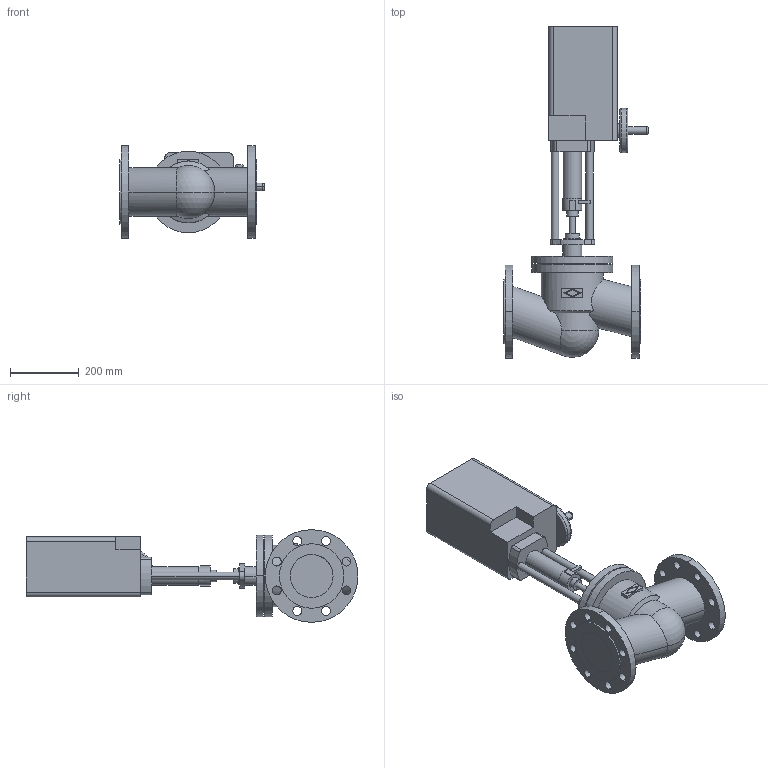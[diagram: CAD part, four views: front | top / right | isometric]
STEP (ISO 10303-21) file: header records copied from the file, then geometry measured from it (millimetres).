
FILE_DESCRIPTION(('OneSpaceDesigner STEP Export'),'2;1');
FILE_NAME('c000003127.stp','2007-01-16T10:43:26',(''),(''),'OneSpace Designer STEP processor for AP214 (Solid Model)','OneSpace Designer 14.00B 27-May-2006 (C) CoCreate Software GmbH','');
FILE_SCHEMA(('AUTOMOTIVE_DESIGN { 1 0 10303 214 1 1 1 1 }'));
Length unit declared in the file: millimetre
Products named in the file (2): 1; 2
Bounding box: 421.6 x 967.5 x 270 mm (x, y, z)
Volume: 25725670.9 mm3; surface area: 1046959.1 mm2
Topology: 2 solids, 2 shells, 180 faces, 444 edges, 294 vertices
Faces by surface type: cylinder 96, plane 74, torus 6, cone 2, sphere 2
Entity records: 5118 total; most frequent: CARTESIAN_POINT 1089, ORIENTED_EDGE 884, DIRECTION 740, EDGE_CURVE 442, VERTEX_POINT 294, AXIS2_PLACEMENT_3D 266, EDGE_LOOP 240, VECTOR 208
